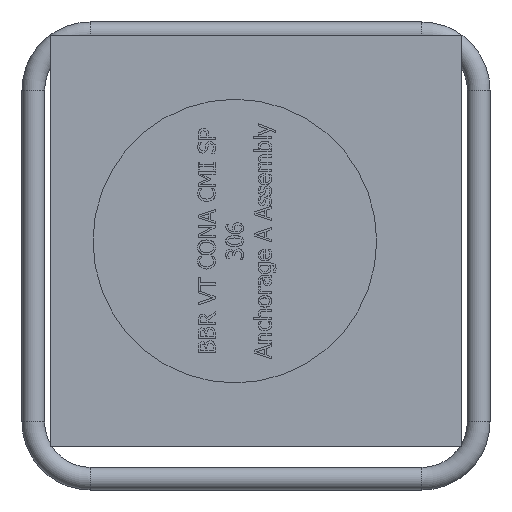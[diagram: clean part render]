
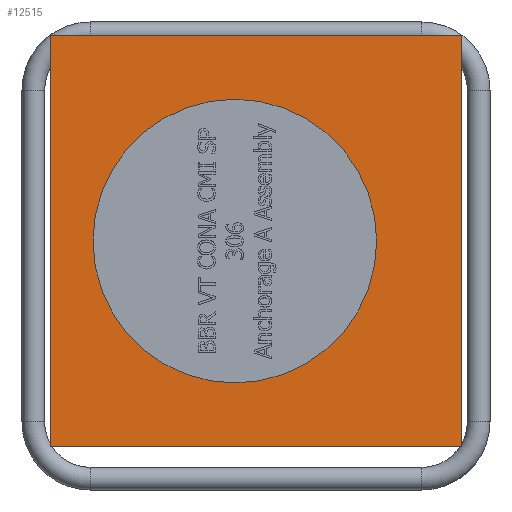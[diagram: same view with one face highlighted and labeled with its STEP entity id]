
A CAD part, left-side view. The second image highlights one B-rep face of the part: STEP entity #12515.
In plain terms, the highlighted planar face has unit normal (-1, 0, 0).
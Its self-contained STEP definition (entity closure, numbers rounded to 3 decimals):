
#1942=LINE('',#23637,#2980);
#1946=LINE('',#23645,#2984);
#1949=LINE('',#23651,#2987);
#1952=LINE('',#23656,#2990);
#2980=VECTOR('',#14713,145.);
#2984=VECTOR('',#14719,145.);
#2987=VECTOR('',#14724,145.);
#2990=VECTOR('',#14729,145.);
#3295=PLANE('',#12913);
#3406=FACE_BOUND('',#4805,.T.);
#4068=FACE_OUTER_BOUND('',#4804,.T.);
#4804=EDGE_LOOP('',(#11117,#11118,#11119,#11120));
#4805=EDGE_LOOP('',(#11121));
#4890=CIRCLE('',#12887,50.);
#6036=VERTEX_POINT('',#22121);
#6048=VERTEX_POINT('',#23635);
#6049=VERTEX_POINT('',#23636);
#6052=VERTEX_POINT('',#23644);
#6054=VERTEX_POINT('',#23650);
#7731=EDGE_CURVE('',#6036,#6036,#4890,.T.);
#7745=EDGE_CURVE('',#6048,#6049,#1942,.T.);
#7749=EDGE_CURVE('',#6049,#6052,#1946,.T.);
#7752=EDGE_CURVE('',#6052,#6054,#1949,.T.);
#7755=EDGE_CURVE('',#6054,#6048,#1952,.T.);
#11117=ORIENTED_EDGE('',*,*,#7755,.T.);
#11118=ORIENTED_EDGE('',*,*,#7745,.T.);
#11119=ORIENTED_EDGE('',*,*,#7749,.T.);
#11120=ORIENTED_EDGE('',*,*,#7752,.T.);
#11121=ORIENTED_EDGE('',*,*,#7731,.T.);
#12515=ADVANCED_FACE('',(#4068,#3406),#3295,.T.);
#12887=AXIS2_PLACEMENT_3D('',#22122,#14667,#14668);
#12913=AXIS2_PLACEMENT_3D('',#23658,#14731,#14732);
#14667=DIRECTION('center_axis',(1.,0.,0.));
#14668=DIRECTION('ref_axis',(0.,-1.,0.));
#14713=DIRECTION('',(0.,0.,-1.));
#14719=DIRECTION('',(0.,-1.,0.));
#14724=DIRECTION('',(0.,0.,1.));
#14729=DIRECTION('',(0.,1.,0.));
#14731=DIRECTION('center_axis',(-1.,0.,0.));
#14732=DIRECTION('ref_axis',(0.,0.,-1.));
#22121=CARTESIAN_POINT('',(-112.151,7.466,-44.747));
#22122=CARTESIAN_POINT('Origin',(-112.151,7.466,5.253));
#23635=CARTESIAN_POINT('',(-112.151,72.5,77.753));
#23636=CARTESIAN_POINT('',(-112.151,72.5,-67.247));
#23637=CARTESIAN_POINT('',(-112.151,72.5,77.753));
#23644=CARTESIAN_POINT('',(-112.151,-72.5,-67.247));
#23645=CARTESIAN_POINT('',(-112.151,72.5,-67.247));
#23650=CARTESIAN_POINT('',(-112.151,-72.5,77.753));
#23651=CARTESIAN_POINT('',(-112.151,-72.5,-67.247));
#23656=CARTESIAN_POINT('',(-112.151,-72.5,77.753));
#23658=CARTESIAN_POINT('Origin',(-112.151,0.,5.253));
